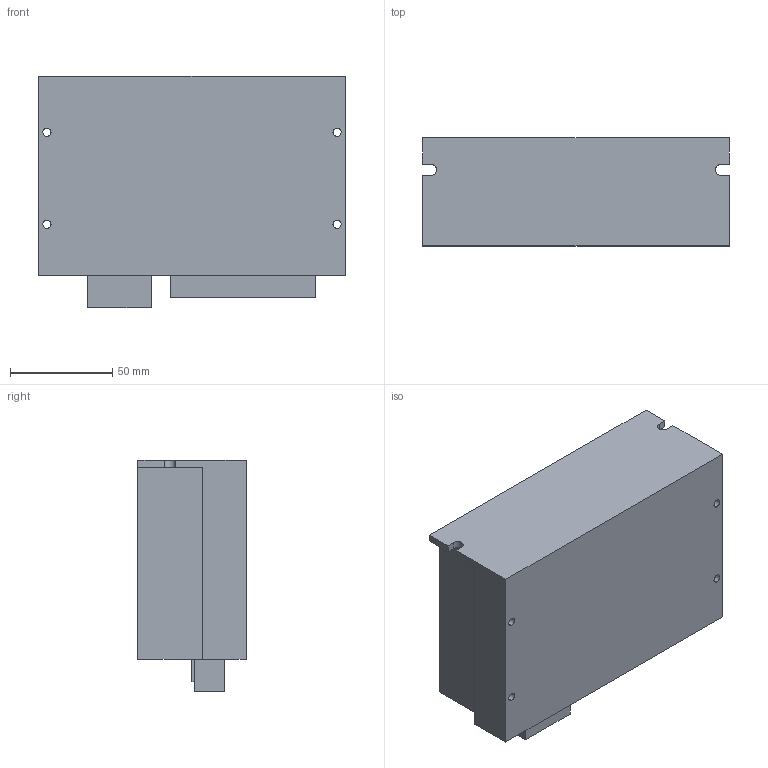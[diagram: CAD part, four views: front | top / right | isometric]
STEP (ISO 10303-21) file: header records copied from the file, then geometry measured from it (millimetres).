
FILE_DESCRIPTION (( 'STEP AP214' ), '1' );
FILE_NAME ('150-97.5-53.STEP', '2022-07-28T08:56:09', ( '微软用户' ), ( '微软中国' ), 'SwSTEP 2.0', 'SolidWorks 2018', '' );
FILE_SCHEMA (( 'AUTOMOTIVE_DESIGN' ));
Length unit declared in the file: millimetre
Products named in the file (1): 150-97.5-53
Bounding box: 150 x 53 x 113.5 mm (x, y, z)
Volume: 748384.1 mm3; surface area: 59683.6 mm2
Topology: 1 solids, 1 shells, 39 faces, 105 edges, 70 vertices
Faces by surface type: plane 28, cylinder 11
Entity records: 1271 total; most frequent: CARTESIAN_POINT 215, ORIENTED_EDGE 210, DIRECTION 207, EDGE_CURVE 105, VECTOR 83, LINE 83, VERTEX_POINT 70, AXIS2_PLACEMENT_3D 62
